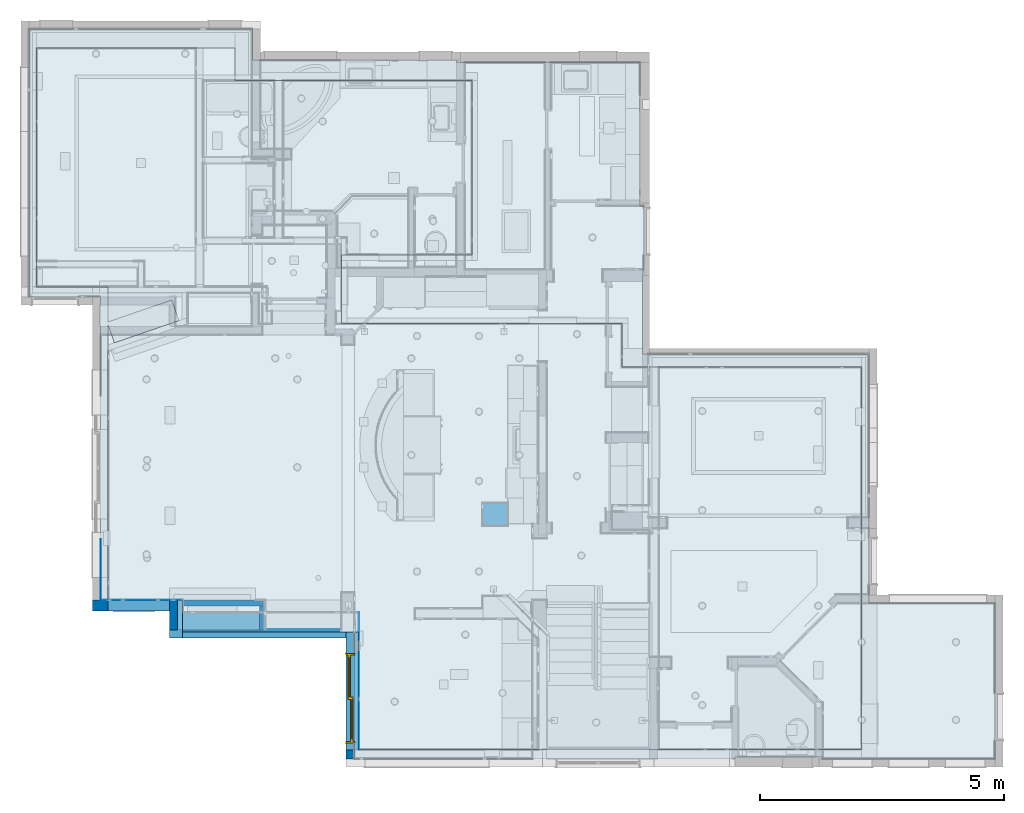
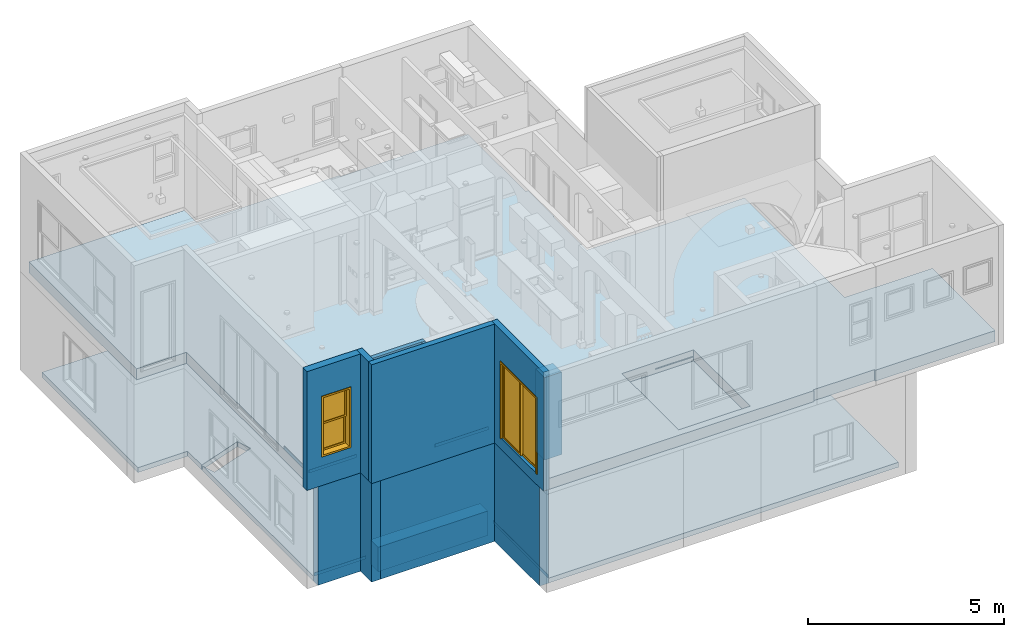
# One storey, part 1 of 60: 16 walls, 2 slabs, 1 column, 1 door, 1 window, 5 openings.
"""IFC2X3 building model written with IfcOpenShell, lengths in feet."""

from ifc_helpers import new_model, entity, si_unit, converted_unit, direction, frame, frame_2d, origin, origin_2d_with_axis, place, context, subcontext, project, spatial, polyline, rectangle, outline, extrude, clip, bounded_halfspace, source, transform, mapped, material, material_list, layer, layer_set, layer_usage, type_object, type_shapes, element, fill, save


model = new_model("IFC2X3")

# Units and contexts
model_context = context("Model", 3, precision=0.0001, world=origin(), true_north=direction((6.123031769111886e-17, 1.0)))
plan_context = context("Plan", 3, precision=0.0001, world=origin(), true_north=direction((6.123031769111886e-17, 1.0)))
body_context = subcontext(model_context, "Body", "Model", "MODEL_VIEW")
ifc_project = project(units=[converted_unit("LENGTHUNIT", "FOOT", entity("IfcLengthMeasure", 0.3048), si_unit("LENGTHUNIT", "METRE"), dimensions=[1, 0, 0, 0, 0, 0, 0]), converted_unit("AREAUNIT", "SQUARE FOOT", entity("IfcAreaMeasure", 0.09290304), si_unit("AREAUNIT", "SQUARE_METRE"), dimensions=[2, 0, 0, 0, 0, 0, 0]), converted_unit("PLANEANGLEUNIT", "DEGREE", entity("IfcPlaneAngleMeasure", 0.017453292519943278), si_unit("PLANEANGLEUNIT", "RADIAN"), dimensions=[0, 0, 0, 0, 0, 0, 0])], contexts=[model_context, plan_context])

# Site, building, storey
site_placement = place(None, origin())
site = spatial("IfcSite", under=ifc_project, at=site_placement, Name="Default", CompositionType="ELEMENT")
building_placement = place(site_placement, origin())
building = spatial("IfcBuilding", under=site, at=building_placement, CompositionType="ELEMENT")
storey_placement = place(building_placement, origin())
storey = spatial("IfcBuildingStorey", under=building, at=storey_placement, Name="First floor", CompositionType="ELEMENT", Elevation=0.0)

# Column
ifc_material_1 = material(Name="Default New Material")
column_type = type_object("IfcColumnType", Name="M_Rectangular Column:475 x 610mm", PredefinedType="COLUMN", material=ifc_material_1)
shared_shape_1 = source(origin(), body_context, "Body", "SweptSolid", [
    extrude(rectangle(XDim=1.6666666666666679, YDim=1.499999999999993, at=origin_2d_with_axis()), frame((10.0, 16.958333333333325, 0.0), z_axis=(0.0, 0.0, 1.0), x_axis=(-1.0, 0.0, 0.0)), (0.0, 0.0, 1.0), 8.416666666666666),
])
type_shapes(column_type, [shared_shape_1])
column_placement = place(storey_placement, origin())
element("IfcColumn", 1, at=column_placement, inside=storey, type_object=column_type, material=ifc_material_1, Name="M_Rectangular Column:475 x 610mm", ObjectType="M_Rectangular Column:475 x 610mm", context=body_context, shape_type="MappedRepresentation", body=[
    mapped(shared_shape_1, transform((0.0, 0.0, 0.0), scale=1.0)),
])

# Slab
ifc_layer_1 = layer(ifc_material_1, 0.5)
ifc_layer_set_1 = layer_set([ifc_layer_1], Name="Floor:Floor_6\"")
ifc_layer_usage_1 = layer_usage(ifc_layer_set_1, "AXIS3", "POSITIVE", 0.0)
slab_type_1 = type_object("IfcSlabType", Name="Floor:Floor_6\"", PredefinedType="FLOOR", material=ifc_layer_set_1)
slab_1_placement = place(storey_placement, origin())
element("IfcSlab", 2, at=slab_1_placement, inside=storey, type_object=slab_type_1, material=ifc_layer_usage_1, Name="Floor:Floor_6\"", ObjectType="Floor:Floor_6\"", PredefinedType="FLOOR", context=body_context, shape_type="SweptSolid", body=[
    extrude(outline(polyline([(4.948921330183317, -18.320884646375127), (20.990587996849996, -18.320884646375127), (20.99058799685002, -5.008384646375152), (18.823921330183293, -5.00838464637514), (18.823921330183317, 10.929115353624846), (7.115587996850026, 10.929115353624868), (7.115587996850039, 2.137448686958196), (2.4905879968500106, 2.137448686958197), (2.490587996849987, 21.012448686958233), (-0.4260786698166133, 21.012448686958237), (-0.4260786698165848, 37.09578202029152), (-26.13441200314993, 37.09578202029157), (-26.134412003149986, 3.304115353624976), (-18.21774533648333, 3.304115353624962), (-18.217745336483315, -8.529217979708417), (-16.092745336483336, -8.529217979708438), (-16.092745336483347, -13.529217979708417), (2.432638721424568, -13.529217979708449), (1.1995041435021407, -13.105327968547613), (2.68945308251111, -8.770931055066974), (4.0764600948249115, -9.247714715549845), (2.6046933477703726, -13.529217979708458), (4.948921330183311, -13.529217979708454), (4.948921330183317, -18.320884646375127)])), frame((-2.470782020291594, 27.30107866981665, 0.0), z_axis=(0.0, 0.0, -1.0), x_axis=(0.0, 1.0, 0.0)), (0.0, 0.0, 1.0), 0.5000000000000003),
])

# Slab, openings
ifc_layer_2 = layer(ifc_material_1, 1.125)
ifc_layer_set_2 = layer_set([ifc_layer_2], Name="Floor:Floor_13.5\"")
ifc_layer_usage_2 = layer_usage(ifc_layer_set_2, "AXIS3", "POSITIVE", 0.0)
slab_type_2 = type_object("IfcSlabType", Name="Floor:Floor_13.5\"", PredefinedType="FLOOR", material=ifc_layer_set_2)
slab_2_placement = place(storey_placement, frame((-21.312499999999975, 0.5416666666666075, 9.541666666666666)))
slab_2 = element("IfcSlab", 3, at=slab_2_placement, inside=storey, type_object=slab_type_2, material=ifc_layer_usage_2, Name="Floor:Floor_13.5\"", ObjectType="Floor:Floor_13.5\"", PredefinedType="FLOOR", context=body_context, shape_type="SweptSolid", body=[
    extrude(outline(polyline([(32.44791666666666, 6.520833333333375), (32.44791666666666, 24.520833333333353), (17.447916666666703, 24.520833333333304), (17.447916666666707, 22.43715483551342), (3.718750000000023, 22.437154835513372), (3.718750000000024, 22.270488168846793), (-8.614583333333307, 22.27048816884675), (-8.614583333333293, 12.645488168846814), (-8.86458333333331, 12.645488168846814), (-8.864583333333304, 8.353821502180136), (-8.781249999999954, 8.353821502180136), (-8.781249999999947, 2.687500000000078), (-23.98958333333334, 2.687500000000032), (-23.98958333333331, -14.04166666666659), (-32.44791666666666, -14.041666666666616), (-32.44791666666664, -24.520833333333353), (-20.86458333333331, -24.520833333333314), (-20.86458333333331, -24.395833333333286), (-14.968749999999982, -24.395833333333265), (-14.968749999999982, -24.520833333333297), (-9.292320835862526, -24.52083333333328), (10.59375000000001, -24.520833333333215), (10.593749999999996, -15.854166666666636), (22.46875000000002, -15.854166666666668), (22.46875000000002, -13.854166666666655), (27.63541666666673, -13.854166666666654), (27.635416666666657, 6.520833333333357), (32.44791666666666, 6.520833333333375)])), frame((32.44791666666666, 24.520833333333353, 1.125), z_axis=(0.0, 0.0, -1.0), x_axis=(-1.0, 0.0, 0.0)), (0.0, 0.0, 1.0), 1.125),
])
opening_1_placement = place(slab_2_placement, frame((21.312499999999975, -0.5416666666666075, -9.541666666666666)))
element("IfcOpeningElement", 4, at=opening_1_placement, cuts=slab_2, Name="Floor:Floor_13.5\"", ObjectType="Recess", context=body_context, shape_type="SweptSolid", body=[
    extrude(rectangle(XDim=3.6995442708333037, YDim=0.1249070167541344, at=frame_2d((-1.7763568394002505e-15, 0.0), x_axis=(1.0, 0.0))), frame((18.558105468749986, 10.77078684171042, 9.958333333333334), z_axis=(0.0, 0.0, 1.0), x_axis=(-1.0, 0.0, 0.0)), (0.0, 0.0, 1.0), 0.08333333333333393),
])
opening_2_placement = place(slab_2_placement, origin())
element("IfcOpeningElement", 5, at=opening_2_placement, cuts=slab_2, Name="Floor:Floor_13.5\"", ObjectType="Opening", context=body_context, shape_type="SweptSolid", body=[
    extrude(rectangle(XDim=6.916666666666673, YDim=9.458333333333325, at=frame_2d((-8.881784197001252e-16, -7.993605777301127e-15), x_axis=(1.0, 0.0))), frame((38.22916666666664, 5.437500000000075, 1.125)), (0.0, 0.0, -1.0), 1.125),
])

# Wall, opening, door
ifc_layer_3 = layer(ifc_material_1, 0.5416666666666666)
ifc_layer_set_3 = layer_set([ifc_layer_3], Name="Basic Wall:Wall_6.5\"")
ifc_layer_usage_3 = layer_usage(ifc_layer_set_3, "AXIS2", "NEGATIVE", 0.2708333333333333)
wall_type_1 = type_object("IfcWallType", Name="Basic Wall:Wall_6.5\"", PredefinedType="STANDARD", material=ifc_layer_set_3)
wall_1_placement = place(storey_placement, frame((0.2708333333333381, 0.5416666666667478, 9.541666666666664), z_axis=(0.0, 0.0, 1.0), x_axis=(0.0, 1.0, 0.0)))
wall_1 = element("IfcWallStandardCase", 6, at=wall_1_placement, inside=storey, type_object=wall_type_1, material=ifc_layer_usage_3, Name="Basic Wall:Wall_6.5\"", ObjectType="Basic Wall:Wall_6.5\"", context=body_context, shape_type="SweptSolid", body=[
    extrude(rectangle(XDim=8.66666666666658, YDim=0.5416666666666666, at=frame_2d((4.33333333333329, 0.0), x_axis=(-1.0, 0.0))), origin(), (0.0, 0.0, 1.0), 12.125),
])
opening_3_placement = place(wall_1_placement, frame((7.08333333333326, 0.27083333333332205, 1.125)))
opening_3 = element("IfcOpeningElement", 7, at=opening_3_placement, cuts=wall_1, Name="C_Sliding Door Double Glass:5'-10\" X 7'-8\":1", ObjectType="Opening", context=body_context, shape_type="SweptSolid", body=[
    extrude(rectangle(XDim=7.75, YDim=5.999999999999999, at=frame_2d((3.875000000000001, 3.0), x_axis=(-1.0, 0.0))), frame((0.0, 0.0, 0.0), z_axis=(0.0, -1.0, 0.0), x_axis=(0.0, 0.0, 1.0)), (0.0, 0.0, 1.0), 0.5416666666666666),
])
ifc_material_2 = material(Name="Glass")
ifc_material_list = material_list([ifc_material_1, ifc_material_2])
door_style = type_object("IfcDoorStyle", Name="C_Sliding Door Double Glass:5'-10\" X 7'-8\"", ConstructionType="NOTDEFINED", OperationType="NOTDEFINED", ParameterTakesPrecedence=False, Sizeable=False, material=ifc_material_list)
shared_shape_2 = source(origin(), body_context, "Body", "SweptSolid", [
    extrude(outline(polyline([(-3.833333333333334, -1.4999999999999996), (3.833333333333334, -1.4999999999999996), (3.833333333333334, 1.4999999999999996), (-3.833333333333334, 1.4999999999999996), (-3.833333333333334, -1.4999999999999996)]), holes=[polyline([(-3.666666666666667, 1.3333333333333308), (3.666666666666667, 1.3333333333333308), (3.666666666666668, -1.3333333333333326), (-3.666666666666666, -1.3333333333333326), (-3.666666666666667, 1.3333333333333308)])]), frame((4.416666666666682, 0.41666666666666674, 3.833333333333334), z_axis=(0.0, -1.0, 0.0), x_axis=(0.0, 0.0, -1.0)), (0.0, 0.0, 1.0), 0.16666666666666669),
    extrude(outline(polyline([(-3.833333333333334, -1.4999999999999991), (3.833333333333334, -1.4999999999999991), (3.833333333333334, 1.4999999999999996), (-3.833333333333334, 1.4999999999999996), (-3.833333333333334, -1.4999999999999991)]), holes=[polyline([(-3.666666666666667, 1.333333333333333), (3.666666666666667, 1.333333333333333), (3.666666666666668, -1.3333333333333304), (-3.666666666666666, -1.3333333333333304), (-3.666666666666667, 1.333333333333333)])]), frame((1.58333333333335, 0.25, 3.833333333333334), z_axis=(0.0, -1.0, 0.0), x_axis=(0.0, 0.0, -1.0)), (0.0, 0.0, 1.0), 0.16666666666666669),
    extrude(rectangle(XDim=2.6666666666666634, YDim=0.04166666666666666, at=origin_2d_with_axis()), frame((4.416666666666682, 0.3333333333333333, 0.16666666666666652), z_axis=(0.0, 0.0, 1.0), x_axis=(-1.0, 0.0, 0.0)), (0.0, 0.0, 1.0), 7.333333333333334),
    extrude(rectangle(XDim=2.6666666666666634, YDim=0.04166666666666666, at=origin_2d_with_axis()), frame((1.5833333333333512, 0.16666666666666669, 0.16666666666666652), z_axis=(0.0, 0.0, 1.0), x_axis=(-1.0, 0.0, 0.0)), (0.0, 0.0, 1.0), 7.333333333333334),
    extrude(outline(polyline([(-3.791666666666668, 2.916666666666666), (3.8750000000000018, 2.916666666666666), (3.8750000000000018, 3.0833333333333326), (-3.958333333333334, 3.0833333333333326), (-3.958333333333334, -3.083333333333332), (3.875, -3.083333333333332), (3.875, -2.916666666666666), (-3.791666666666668, -2.916666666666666), (-3.791666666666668, 2.916666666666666)])), frame((3.0, 0.0, 3.875), z_axis=(0.0, -1.0, 0.0), x_axis=(0.0, 0.0, -1.0)), (0.0, 0.0, 1.0), 0.0625),
    extrude(outline(polyline([(-3.7916666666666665, 2.9166666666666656), (3.8750000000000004, 2.9166666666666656), (3.8750000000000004, 3.0833333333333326), (-3.9583333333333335, 3.0833333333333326), (-3.9583333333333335, -3.0833333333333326), (3.8750000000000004, -3.0833333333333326), (3.8750000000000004, -2.9166666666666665), (-3.7916666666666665, -2.9166666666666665), (-3.7916666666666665, 2.9166666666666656)])), frame((3.0, 0.6041666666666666, 3.8750000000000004), z_axis=(0.0, -1.0, 0.0), x_axis=(0.0, 0.0, -1.0)), (0.0, 0.0, 1.0), 0.0625),
    extrude(outline(polyline([(2.9166666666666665, -3.8541666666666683), (3.0, -3.8541666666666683), (3.0, 3.8958333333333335), (-3.0, 3.8958333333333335), (-3.0, -3.8541666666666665), (-2.916666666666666, -3.8541666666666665), (-2.916666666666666, 3.8125000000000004), (2.9166666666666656, 3.8125000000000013), (2.9166666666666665, -3.8541666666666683)])), frame((3.0, 0.5416666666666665, 3.8541666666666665), z_axis=(0.0, -1.0, 0.0), x_axis=(1.0, 0.0, 0.0)), (0.0, 0.0, 1.0), 0.5416666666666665),
])
type_shapes(door_style, [shared_shape_2])
door_placement = place(opening_3_placement, frame((-6.0, -0.5416666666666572, 0.0)))
door = element("IfcDoor", 8, at=door_placement, inside=storey, type_object=door_style, material=ifc_material_list, Name="C_Sliding Door Double Glass:5'-10\" X 7'-8\"", ObjectType="C_Sliding Door Double Glass:5'-10\" X 7'-8\"", OverallHeight=7.75, OverallWidth=6.0, context=body_context, shape_type="MappedRepresentation", body=[
    mapped(shared_shape_2, transform((0.0, 0.0, 0.0), scale=1.0)),
])
fill(opening_3, door)

# Walls
ifc_layer_usage_4 = layer_usage(ifc_layer_set_3, "AXIS2", "NEGATIVE", 0.2708333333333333)
wall_2_placement = place(storey_placement, frame((0.0, 8.937499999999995, 9.541666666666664), z_axis=(0.0, 0.0, 1.0), x_axis=(-1.0, 0.0, 0.0)))
element("IfcWallStandardCase", 9, at=wall_2_placement, inside=storey, type_object=wall_type_1, material=ifc_layer_usage_4, Name="Basic Wall:Wall_6.5\"", ObjectType="Basic Wall:Wall_6.5\"", context=body_context, shape_type="SweptSolid", body=[
    extrude(rectangle(XDim=11.875000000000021, YDim=0.5416666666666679, at=frame_2d((5.937500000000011, 0.0), x_axis=(-1.0, 0.0))), origin(), (0.0, 0.0, 1.0), 12.125),
])
ifc_layer_usage_5 = layer_usage(ifc_layer_set_3, "AXIS2", "NEGATIVE", 0.2708333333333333)
wall_3_placement = place(storey_placement, frame((-11.604166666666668, 9.208333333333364, 9.541666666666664), z_axis=(0.0, 0.0, 1.0), x_axis=(0.0, 1.0, 0.0)))
element("IfcWallStandardCase", 10, at=wall_3_placement, inside=storey, type_object=wall_type_1, material=ifc_layer_usage_5, Name="Basic Wall:Wall_6.5\"", ObjectType="Basic Wall:Wall_6.5\"", context=body_context, shape_type="SweptSolid", body=[
    extrude(rectangle(XDim=1.9999999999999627, YDim=0.5416666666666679, at=frame_2d((0.9999999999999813, 0.0), x_axis=(-1.0, 0.0))), origin(), (0.0, 0.0, 1.0), 12.125),
])

# Wall, opening, window
ifc_layer_4 = layer(ifc_material_1, 0.7083333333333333)
ifc_layer_set_4 = layer_set([ifc_layer_4], Name="Basic Wall:Wall_8.5\"")
ifc_layer_usage_6 = layer_usage(ifc_layer_set_4, "AXIS2", "NEGATIVE", 0.35416666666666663)
wall_type_2 = type_object("IfcWallType", Name="Basic Wall:Wall_8.5\"", PredefinedType="STANDARD", material=ifc_layer_set_4)
wall_4_placement = place(storey_placement, frame((-11.874999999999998, 10.854166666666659, 9.541666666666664), z_axis=(0.0, 0.0, 1.0), x_axis=(-1.0, 0.0, 0.0)))
wall_4 = element("IfcWallStandardCase", 11, at=wall_4_placement, inside=storey, type_object=wall_type_2, material=ifc_layer_usage_6, Name="Basic Wall:Wall_8.5\"", ObjectType="Basic Wall:Wall_8.5\"", context=body_context, shape_type="SweptSolid", body=[
    extrude(rectangle(XDim=5.166666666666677, YDim=0.7083333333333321, at=frame_2d((2.5833333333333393, 8.881784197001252e-16), x_axis=(-1.0, 0.0))), origin(), (0.0, 0.0, 1.0), 12.125),
])
opening_4_placement = place(wall_4_placement, frame((1.0416666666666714, -0.3541666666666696, 3.041666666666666)))
opening_4 = element("IfcOpeningElement", 12, at=opening_4_placement, cuts=wall_4, Name="C_Window Guilotine:2'-6\" X 5'-10\":1", ObjectType="Opening", context=body_context, shape_type="SweptSolid", body=[
    extrude(rectangle(XDim=2.666666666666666, YDim=6.000000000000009, at=frame_2d((3.0000000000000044, 1.333333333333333), x_axis=(0.0, 1.0))), frame((0.0, 0.0, 0.0), z_axis=(0.0, 1.0, 0.0), x_axis=(0.0, 0.0, 1.0)), (0.0, 0.0, 1.0), 0.7083333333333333),
])
window_style = type_object("IfcWindowStyle", Name="C_Window Guilotine:2'-6\" X 5'-10\"", ConstructionType="NOTDEFINED", OperationType="NOTDEFINED", ParameterTakesPrecedence=False, Sizeable=False, material=ifc_material_list)
shared_shape_3 = source(origin(), body_context, "Body", "SweptSolid", [
    extrude(outline(polyline([(-1.5000000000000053, -1.2499999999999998), (1.5000000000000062, -1.2499999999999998), (1.5000000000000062, 1.2499999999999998), (-1.5000000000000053, 1.2499999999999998), (-1.5000000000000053, -1.2499999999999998)]), holes=[polyline([(-1.3333333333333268, -1.0833333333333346), (-1.3333333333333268, 1.0833333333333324), (1.3333333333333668, 1.0833333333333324), (1.3333333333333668, -1.0833333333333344), (-1.3333333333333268, -1.0833333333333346)])]), frame((1.333333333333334, 0.16666666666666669, 4.416666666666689), z_axis=(0.0, 1.0, 0.0), x_axis=(0.0, 0.0, -1.0)), (0.0, 0.0, 1.0), 0.16666666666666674),
    extrude(rectangle(XDim=0.04166666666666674, YDim=0.04166666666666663, at=origin_2d_with_axis()), frame((1.6944444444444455, 0.25000000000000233, 3.0833333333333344)), (0.0, 0.0, 1.0), 2.666666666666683),
    extrude(rectangle(XDim=0.04166666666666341, YDim=0.04166666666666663, at=origin_2d_with_axis()), frame((0.9722222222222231, 0.25000000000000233, 3.0833333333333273)), (0.0, 0.0, 1.0), 2.666666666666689),
    extrude(rectangle(XDim=2.166666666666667, YDim=0.04166666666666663, at=frame_2d((1.1102230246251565e-16, 0.0), x_axis=(1.0, 0.0))), frame((1.3333333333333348, 0.25000000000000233, 3.083333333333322)), (0.0, 0.0, 1.0), 2.6666666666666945),
    extrude(rectangle(XDim=2.1666666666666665, YDim=0.04166666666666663, at=origin_2d_with_axis()), frame((1.3333333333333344, 0.08333333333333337, 2.0069444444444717)), (0.0, 0.0, 1.0), 0.04166666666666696),
    extrude(rectangle(XDim=2.1666666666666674, YDim=0.04166666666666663, at=origin_2d_with_axis()), frame((1.3333333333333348, 0.08333333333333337, 1.1180555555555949)), (0.0, 0.0, 1.0), 0.04166666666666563),
    extrude(rectangle(XDim=0.04166666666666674, YDim=0.04166666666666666, at=frame_2d((0.0, 1.3877787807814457e-17), x_axis=(1.0, 0.0))), frame((1.6944444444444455, 0.0833333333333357, 0.2500000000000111)), (0.0, 0.0, 1.0), 2.6666666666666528),
    extrude(rectangle(XDim=0.04166666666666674, YDim=0.04166666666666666, at=frame_2d((0.0, 1.3877787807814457e-17), x_axis=(1.0, 0.0))), frame((0.9722222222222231, 0.0833333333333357, 0.2500000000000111)), (0.0, 0.0, 1.0), 2.6666666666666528),
    extrude(rectangle(XDim=2.166666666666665, YDim=0.04166666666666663, at=origin_2d_with_axis()), frame((1.3333333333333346, 0.08333333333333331, 0.25000000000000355)), (0.0, 0.0, 1.0), 2.666666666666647),
    extrude(outline(polyline([(-1.2500000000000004, -1.5000000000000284), (1.2500000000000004, -1.5000000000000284), (1.2500000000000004, 1.5000000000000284), (-1.2500000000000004, 1.5000000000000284), (-1.2500000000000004, -1.5000000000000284)]), holes=[polyline([(1.083333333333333, -1.3333333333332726), (-1.0833333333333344, -1.3333333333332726), (-1.0833333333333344, 1.3333333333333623), (1.083333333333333, 1.3333333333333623), (1.083333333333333, -1.3333333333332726)])]), frame((1.3333333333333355, 0.0, 1.5833333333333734), z_axis=(0.0, 1.0, 0.0), x_axis=(1.0, 0.0, 0.0)), (0.0, 0.0, 1.0), 0.16666666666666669),
    extrude(rectangle(XDim=2.166666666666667, YDim=0.04166666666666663, at=origin_2d_with_axis()), frame((1.3333333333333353, 0.25000000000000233, 4.840277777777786)), (0.0, 0.0, 1.0), 0.04166666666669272),
    extrude(rectangle(XDim=2.166666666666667, YDim=0.04166666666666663, at=origin_2d_with_axis()), frame((1.3333333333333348, 0.25000000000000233, 3.9513888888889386)), (0.0, 0.0, 1.0), 0.04166666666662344),
    extrude(outline(polyline([(-1.4166666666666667, -3.083333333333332), (1.4166666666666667, -3.083333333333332), (1.4166666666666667, 3.083333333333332), (-1.4166666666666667, 3.083333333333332), (-1.4166666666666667, -3.083333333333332)]), holes=[polyline([(-1.250000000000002, -2.916666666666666), (-1.2500000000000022, 2.916666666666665), (1.2499999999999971, 2.916666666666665), (1.2499999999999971, -2.916666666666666), (-1.250000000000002, -2.916666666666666)])]), frame((1.3333333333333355, -0.0625, 3.0), z_axis=(0.0, 1.0, 0.0), x_axis=(1.0, 0.0, 0.0)), (0.0, 0.0, 1.0), 0.0625),
    extrude(outline(polyline([(-1.4166666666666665, -3.083333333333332), (1.4166666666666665, -3.083333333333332), (1.4166666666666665, 3.083333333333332), (-1.4166666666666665, 3.083333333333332), (-1.4166666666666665, -3.083333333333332)]), holes=[polyline([(-1.2500000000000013, -2.916666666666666), (-1.2500000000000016, 2.916666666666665), (1.2499999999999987, 2.916666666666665), (1.2499999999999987, -2.916666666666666), (-1.2500000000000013, -2.916666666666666)])]), frame((1.333333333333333, 0.7083333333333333, 3.0), z_axis=(0.0, 1.0, 0.0), x_axis=(1.0, 0.0, 0.0)), (0.0, 0.0, 1.0), 0.0625),
    extrude(outline(polyline([(-1.3333333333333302, -3.0), (1.3333333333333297, -3.0), (1.33333333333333, 3.0), (-1.33333333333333, 3.0), (-1.3333333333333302, -3.0)]), holes=[polyline([(1.2499999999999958, -2.9166666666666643), (-1.2499999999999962, -2.9166666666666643), (-1.2499999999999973, 2.9166666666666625), (1.249999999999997, 2.9166666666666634), (1.2499999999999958, -2.9166666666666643)])]), frame((1.333333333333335, 0.0, 3.0), z_axis=(0.0, 1.0, 0.0), x_axis=(1.0, 0.0, 0.0)), (0.0, 0.0, 1.0), 0.7083333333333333),
])
type_shapes(window_style, [shared_shape_3])
window_placement = place(opening_4_placement, origin())
window = element("IfcWindow", 13, at=window_placement, inside=storey, type_object=window_style, material=ifc_material_list, Name="C_Window Guilotine:2'-6\" X 5'-10\"", ObjectType="C_Window Guilotine:2'-6\" X 5'-10\"", OverallHeight=6.000000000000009, OverallWidth=2.666666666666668, context=body_context, shape_type="MappedRepresentation", body=[
    mapped(shared_shape_3, transform((0.0, 0.0, 0.0), scale=1.0)),
])
fill(opening_4, window)

# Wall
ifc_layer_usage_7 = layer_usage(ifc_layer_set_4, "AXIS2", "NEGATIVE", 0.35416666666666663)
wall_5_placement = place(storey_placement, frame((-11.875000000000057, 10.854166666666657, -0.5), z_axis=(0.0, 0.0, 1.0), x_axis=(-1.0, 0.0, 0.0)))
element("IfcWallStandardCase", 14, at=wall_5_placement, inside=storey, type_object=wall_type_2, material=ifc_layer_usage_7, Name="Basic Wall:Wall_8.5\"", ObjectType="Basic Wall:Wall_8.5\"", context=body_context, shape_type="SweptSolid", body=[
    extrude(rectangle(XDim=4.124999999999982, YDim=0.7083333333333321, at=frame_2d((2.062499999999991, 0.0), x_axis=(-1.0, 0.0))), origin(), (0.0, 0.0, 1.0), 10.041666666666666),
])

# Wall, opening
ifc_layer_5 = layer(ifc_material_1, 0.375)
ifc_layer_set_5 = layer_set([ifc_layer_5], Name="Basic Wall:Wall_4.5\"")
ifc_layer_usage_8 = layer_usage(ifc_layer_set_5, "AXIS2", "NEGATIVE", 0.1875)
wall_type_3 = type_object("IfcWallType", Name="Basic Wall:Wall_4.5\"", PredefinedType="STANDARD", material=ifc_layer_set_5)
wall_6_placement = place(storey_placement, frame((-11.333333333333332, 11.020833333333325, 10.666666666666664)))
wall_6 = element("IfcWallStandardCase", 15, at=wall_6_placement, inside=storey, type_object=wall_type_3, material=ifc_layer_usage_8, Name="Basic Wall:Wall_4.5\"", ObjectType="Basic Wall:Wall_4.5\"", context=body_context, shape_type="Clipping", body=[
    clip(extrude(rectangle(XDim=5.875000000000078, YDim=0.375, at=frame_2d((2.937500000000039, -2.7755575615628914e-16), x_axis=(-1.0, 0.0))), origin(), (0.0, 0.0, 1.0), 9.875), bounded_halfspace(frame((0.0, -0.1875, 9.875), z_axis=(0.0, 0.0, -1.0), x_axis=(-1.0, 0.0, 0.0)), True, frame((0.0, -0.1875, 9.875), z_axis=(0.0, 0.0, -1.0), x_axis=(-1.0, 0.0, 0.0)), polyline([(0.0, 0.0), (0.0, 0.375), (-5.875000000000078, 0.374999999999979), (-5.875000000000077, 0.0), (-5.500000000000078, 0.0), (0.0, 0.0)]))),
])
opening_5_placement = place(wall_6_placement, frame((11.333333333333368, -11.020833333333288, -10.666666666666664)))
element("IfcOpeningElement", 16, at=opening_5_placement, cuts=wall_6, Name="Basic Wall:Wall_4.5\"", ObjectType="Opening", context=body_context, shape_type="SweptSolid", body=[
    extrude(rectangle(XDim=2.5, YDim=3.2499999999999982, at=frame_2d((8.881784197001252e-16, 0.0), x_axis=(0.0, 1.0))), frame((-9.0, 9.937499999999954, 12.833333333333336), z_axis=(0.0, 1.0, 0.0), x_axis=(-1.0, 0.0, 0.0)), (0.0, 0.0, 1.0), 1.270833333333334),
])

# Walls
ifc_layer_usage_9 = layer_usage(ifc_layer_set_5, "AXIS2", "NEGATIVE", 0.1875)
wall_7_placement = place(storey_placement, frame((-5.645833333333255, 10.833333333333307, 10.666666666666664), z_axis=(0.0, 0.0, 1.0), x_axis=(0.0, -1.0, 0.0)))
element("IfcWallStandardCase", 17, at=wall_7_placement, inside=storey, type_object=wall_type_3, material=ifc_layer_usage_9, Name="Basic Wall:Wall_4.5\"", ObjectType="Basic Wall:Wall_4.5\"", context=body_context, shape_type="Clipping", body=[
    clip(extrude(rectangle(XDim=1.6249999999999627, YDim=0.375, at=frame_2d((0.8124999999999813, 0.0), x_axis=(-1.0, 0.0))), origin(), (0.0, 0.0, 1.0), 9.875), bounded_halfspace(frame((0.0, -0.1875, 9.875), z_axis=(0.0, 0.0, -1.0), x_axis=(0.0, -1.0, 0.0)), True, frame((0.0, -0.1875, 9.875), z_axis=(0.0, 0.0, -1.0), x_axis=(0.0, -1.0, 0.0)), polyline([(0.0, 0.0), (-0.375, 0.0), (-0.3749999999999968, -1.6249999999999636), (0.0, -1.624999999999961), (0.0, 0.0)]))),
])
ifc_layer_6 = layer(ifc_material_1, 0.8333333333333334)
ifc_layer_set_6 = layer_set([ifc_layer_6], Name="Basic Wall:Wall_10\"")
ifc_layer_usage_10 = layer_usage(ifc_layer_set_6, "AXIS2", "NEGATIVE", 0.41666666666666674)
wall_type_4 = type_object("IfcWallType", Name="Basic Wall:Wall_10\"", PredefinedType="STANDARD", material=ifc_layer_set_6)
wall_8_placement = place(storey_placement, frame((0.41672442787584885, 1.1458333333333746, -0.5), z_axis=(0.0, 0.0, 1.0), x_axis=(0.0, 1.0, 0.0)))
element("IfcWallStandardCase", 18, at=wall_8_placement, inside=storey, type_object=wall_type_4, material=ifc_layer_usage_10, Name="Basic Wall:Wall_10\"", ObjectType="Basic Wall:Wall_10\"", context=body_context, shape_type="SweptSolid", body=[
    extrude(rectangle(XDim=7.937499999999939, YDim=0.8333333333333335, at=frame_2d((3.9687499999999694, 0.0), x_axis=(-1.0, 0.0))), origin(), (0.0, 0.0, 1.0), 10.041666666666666),
])
ifc_layer_7 = layer(ifc_material_1, 0.4166666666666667)
ifc_layer_set_7 = layer_set([ifc_layer_7], Name="Basic Wall:Wall_5\"")
ifc_layer_usage_11 = layer_usage(ifc_layer_set_7, "AXIS2", "NEGATIVE", 0.20833333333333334)
wall_type_5 = type_object("IfcWallType", Name="Basic Wall:Wall_5\"", PredefinedType="STANDARD", material=ifc_layer_set_7)
wall_9_placement = place(storey_placement, frame((5.776120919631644e-05, 8.874999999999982, -0.5), z_axis=(0.0, 0.0, 1.0), x_axis=(-1.0, 0.0, 0.0)))
element("IfcWallStandardCase", 19, at=wall_9_placement, inside=storey, type_object=wall_type_5, material=ifc_layer_usage_11, Name="Basic Wall:Wall_5\"", ObjectType="Basic Wall:Wall_5\"", context=body_context, shape_type="SweptSolid", body=[
    extrude(rectangle(XDim=11.000057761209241, YDim=0.41666666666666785, at=frame_2d((5.500028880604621, 8.604228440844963e-16), x_axis=(-1.0, 0.0))), origin(), (0.0, 0.0, 1.0), 10.041666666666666),
])
ifc_layer_8 = layer(ifc_material_1, 0.875)
ifc_layer_set_8 = layer_set([ifc_layer_8], Name="Basic Wall:Wall_10.5\"")
ifc_layer_usage_12 = layer_usage(ifc_layer_set_8, "AXIS2", "NEGATIVE", 0.43750000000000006)
wall_type_6 = type_object("IfcWallType", Name="Basic Wall:Wall_10.5\"", PredefinedType="STANDARD", material=ifc_layer_set_8)
wall_10_placement = place(storey_placement, frame((-11.43750000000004, 8.666666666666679, -0.5), z_axis=(0.0, 0.0, 1.0), x_axis=(0.0, 1.0, 0.0)))
element("IfcWallStandardCase", 20, at=wall_10_placement, inside=storey, type_object=wall_type_6, material=ifc_layer_usage_12, Name="Basic Wall:Wall_10.5\"", ObjectType="Basic Wall:Wall_10.5\"", context=body_context, shape_type="SweptSolid", body=[
    extrude(rectangle(XDim=2.54166666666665, YDim=0.875, at=frame_2d((1.270833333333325, -3.608224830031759e-16), x_axis=(-1.0, 0.0))), origin(), (0.0, 0.0, 1.0), 10.041666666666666),
])
ifc_layer_9 = layer(ifc_material_1, 1.2916666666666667)
ifc_layer_set_9 = layer_set([ifc_layer_9], Name="Basic Wall:Wall_1' 3 1/2\"")
ifc_layer_usage_13 = layer_usage(ifc_layer_set_9, "AXIS2", "POSITIVE", -0.6458333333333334)
wall_type_7 = type_object("IfcWallType", Name="Basic Wall:Wall_1' 3 1/2\"", PredefinedType="STANDARD", material=ifc_layer_set_9)
wall_11_placement = place(storey_placement, frame((-0.4166666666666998, 9.72916666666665, 0.0), z_axis=(0.0, 0.0, 1.0), x_axis=(-1.0, 0.0, 0.0)))
element("IfcWallStandardCase", 21, at=wall_11_placement, inside=storey, type_object=wall_type_7, material=ifc_layer_usage_13, Name="Basic Wall:Wall_1' 3 1/2\"", ObjectType="Basic Wall:Wall_1' 3 1/2\"", context=body_context, shape_type="SweptSolid", body=[
    extrude(rectangle(XDim=10.583333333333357, YDim=1.2916666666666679, at=frame_2d((5.2916666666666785, 0.0), x_axis=(-1.0, 0.0))), origin(), (0.0, 0.0, 1.0), 2.5),
])
ifc_layer_10 = layer(ifc_material_1, 0.041666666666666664)
ifc_layer_set_10 = layer_set([ifc_layer_10], Name="Basic Wall:Wall Border_T1")
ifc_layer_usage_14 = layer_usage(ifc_layer_set_10, "AXIS2", "NEGATIVE", 0.020833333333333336)
wall_type_8 = type_object("IfcWallType", Name="Basic Wall:Wall Border_T1", PredefinedType="STANDARD", material=ifc_layer_set_10)
wall_12_placement = place(storey_placement, frame((0.8541666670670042, 1.1874999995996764, 0.0), z_axis=(0.0, 0.0, 1.0), x_axis=(0.0, 1.0, 0.0)))
element("IfcWallStandardCase", 22, at=wall_12_placement, inside=storey, type_object=wall_type_8, material=ifc_layer_usage_14, Name="Basic Wall:Wall Border_T1", ObjectType="Basic Wall:Wall Border_T1", context=body_context, shape_type="SweptSolid", body=[
    extrude(rectangle(XDim=9.229166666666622, YDim=0.04166666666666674, at=frame_2d((4.614583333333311, 0.0), x_axis=(-1.0, 0.0))), origin(), (0.0, 0.0, 1.0), 0.3333333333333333),
])
ifc_layer_usage_15 = layer_usage(ifc_layer_set_10, "AXIS2", "NEGATIVE", 0.020833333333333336)
wall_13_placement = place(storey_placement, frame((-10.958333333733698, 11.229166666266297, 0.0), z_axis=(0.0, 0.0, 1.0), x_axis=(-1.0, 0.0, 0.0)))
element("IfcWallStandardCase", 23, at=wall_13_placement, inside=storey, type_object=wall_type_8, material=ifc_layer_usage_15, Name="Basic Wall:Wall Border_T1", ObjectType="Basic Wall:Wall Border_T1", context=body_context, shape_type="SweptSolid", body=[
    extrude(rectangle(XDim=5.000000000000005, YDim=0.04166666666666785, at=frame_2d((2.5000000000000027, 0.0), x_axis=(-1.0, 0.0))), origin(), (0.0, 0.0, 1.0), 0.33333333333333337),
])
ifc_layer_usage_16 = layer_usage(ifc_layer_set_10, "AXIS2", "POSITIVE", -0.020833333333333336)
wall_14_placement = place(storey_placement, frame((-0.2916666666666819, 9.229166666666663, 10.666666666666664), z_axis=(0.0, 0.0, 1.0), x_axis=(-1.0, 0.0, 0.0)))
element("IfcWallStandardCase", 24, at=wall_14_placement, inside=storey, type_object=wall_type_8, material=ifc_layer_usage_16, Name="Basic Wall:Wall Border_T1", ObjectType="Basic Wall:Wall Border_T1", context=body_context, shape_type="SweptSolid", body=[
    extrude(rectangle(XDim=5.1666666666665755, YDim=0.04166666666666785, at=frame_2d((2.5833333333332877, 6.418476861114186e-17), x_axis=(-1.0, 0.0))), origin(), (0.0, 0.0, 1.0), 0.3333333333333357),
])
ifc_layer_usage_17 = layer_usage(ifc_layer_set_10, "AXIS2", "POSITIVE", -0.020833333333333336)
wall_15_placement = place(storey_placement, frame((-11.874999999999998, 11.229166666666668, 10.666666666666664), z_axis=(0.0, 0.0, 1.0), x_axis=(-1.0, 0.0, 0.0)))
element("IfcWallStandardCase", 25, at=wall_15_placement, inside=storey, type_object=wall_type_8, material=ifc_layer_usage_17, Name="Basic Wall:Wall Border_T1", ObjectType="Basic Wall:Wall Border_T1", context=body_context, shape_type="SweptSolid", body=[
    extrude(rectangle(XDim=4.583333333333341, YDim=0.04166666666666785, at=frame_2d((2.2916666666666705, 3.660266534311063e-16), x_axis=(-1.0, 0.0))), origin(), (0.0, 0.0, 1.0), 0.3333333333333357),
])
ifc_layer_usage_18 = layer_usage(ifc_layer_set_10, "AXIS2", "POSITIVE", -0.020833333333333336)
wall_16_placement = place(storey_placement, frame((-16.479166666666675, 11.20833333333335, 10.666666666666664), z_axis=(0.0, 0.0, 1.0), x_axis=(0.0, 1.0, 0.0)))
element("IfcWallStandardCase", 26, at=wall_16_placement, inside=storey, type_object=wall_type_8, material=ifc_layer_usage_18, Name="Basic Wall:Wall Border_T1", ObjectType="Basic Wall:Wall Border_T1", context=body_context, shape_type="SweptSolid", body=[
    extrude(rectangle(XDim=4.083333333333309, YDim=0.0416666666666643, at=frame_2d((2.0416666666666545, 1.9081958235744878e-17), x_axis=(-1.0, 0.0))), origin(), (0.0, 0.0, 1.0), 0.3333333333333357),
])

save(model, "model.ifc")
